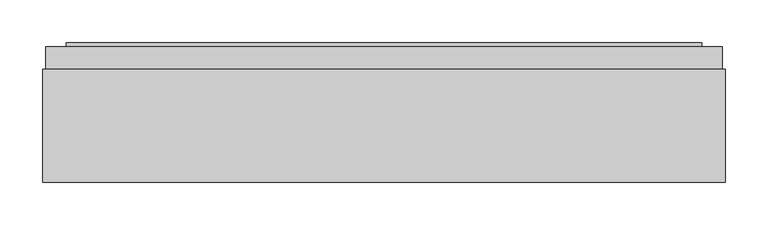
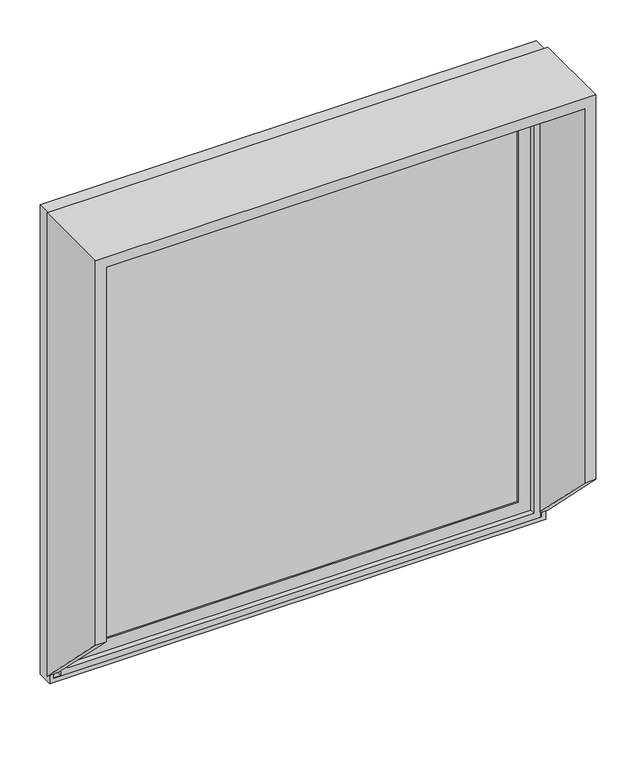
"""IFC4 building model written with IfcOpenShell, lengths in millimetres: plate geometry, SCISSOR PANEL : SCISSOR PANEL."""

from ifc_helpers import new_model, si_unit, frame, origin, place, context, project, spatial, polyline, outline, extrude, faceted_brep, source, transform, mapped, element, save


def plate_d9c9aec6(model_context):
    return source(origin(), model_context, "Body", "SolidModel", [
        faceted_brep([(-400.0, 132.5, 800.0), (400.0, 132.5, 800.0), (400.0, 132.5, 17.5), (382.5, 132.5, 17.5), (382.5, 132.5, 782.5), (-382.5, 132.5, 782.5), (-382.5, 132.5, 17.5), (-400.0, 132.5, 17.5), (-382.5, 0.0, 782.5), (-382.5, 0.0, 150.0), (382.5, 0.0, 150.0), (382.5, 0.0, 782.5), (-400.0, 0.0, 150.0), (400.0, 0.0, 150.0), (400.0, 0.0, 800.0), (-400.0, 0.0, 800.0)], [[[0, 1, 2, 3, 4, 5, 6, 7]], [[6, 5, 8, 9]], [[4, 3, 10, 11]], [[9, 12, 7, 6]], [[13, 10, 3, 2]], [[14, 15, 12, 9, 8, 11, 10, 13]], [[15, 0, 7, 12]], [[1, 14, 13, 2]], [[15, 14, 1, 0]], [[11, 8, 5, 4]]]),
        extrude(outline(polyline([(-369.5, 160.5), (369.5, 160.5), (369.5, 135.5), (-369.5, 135.5), (-369.5, 160.5)])), frame((0.0, 0.0, 30.5), z_axis=(0.0, 0.0, 1.0), x_axis=(1.0, 0.0, 0.0)), (0.0, 0.0, 1.0), 739.0),
        faceted_brep([(-352.5, 135.5, 752.5), (-352.5, 132.5, 752.5), (-352.5, 132.5, 47.5), (-352.5, 135.5, 47.5), (-369.5, 160.5, 769.5), (-369.5, 135.5, 769.5), (-369.5, 135.5, 30.5), (-369.5, 160.5, 30.5), (-352.5, 163.5, 752.5), (-352.5, 160.5, 752.5), (-352.5, 160.5, 47.5), (-352.5, 163.5, 47.5), (-372.5, 132.5, 772.5), (-372.5, 163.5, 772.5), (-372.5, 163.5, 27.5), (-372.5, 132.5, 27.5), (352.5, 132.5, 47.5), (352.5, 135.5, 47.5), (369.5, 135.5, 30.5), (369.5, 160.5, 30.5), (352.5, 160.5, 47.5), (352.5, 163.5, 47.5), (372.5, 163.5, 27.5), (372.5, 132.5, 27.5), (352.5, 132.5, 752.5), (352.5, 135.5, 752.5), (369.5, 135.5, 769.5), (369.5, 160.5, 769.5), (352.5, 160.5, 752.5), (352.5, 163.5, 752.5), (372.5, 163.5, 772.5), (372.5, 132.5, 772.5)], [[[0, 1, 2, 3]], [[4, 5, 6, 7]], [[8, 9, 10, 11]], [[12, 13, 14, 15]], [[3, 2, 16, 17]], [[7, 6, 18, 19]], [[11, 10, 20, 21]], [[15, 14, 22, 23]], [[17, 16, 24, 25]], [[19, 18, 26, 27]], [[21, 20, 28, 29]], [[23, 22, 30, 31]], [[15, 23, 31, 12], [1, 24, 16, 2]], [[25, 24, 1, 0]], [[5, 26, 18, 6], [3, 17, 25, 0]], [[27, 26, 5, 4]], [[7, 19, 27, 4], [9, 28, 20, 10]], [[29, 28, 9, 8]], [[13, 30, 22, 14], [11, 21, 29, 8]], [[31, 30, 13, 12]]]),
        faceted_brep([(-396.5, 132.5, 796.5), (-396.5, 158.75, 796.5), (-396.5, 158.75, 3.5), (-396.5, 132.5, 3.5), (-389.5, 150.0, 789.5), (-389.5, 132.5, 789.5), (-389.5, 132.5, 10.5), (-389.5, 150.0, 10.5), (-382.5, 123.75, 782.5), (-382.5, 150.0, 782.5), (-382.5, 150.0, 17.5), (-382.5, 123.75, 17.5), (-372.5, 158.75, 772.5), (-372.5, 123.75, 772.5), (-372.5, 123.75, 27.5), (-372.5, 158.75, 27.5), (396.5, 158.75, 3.5), (396.5, 132.5, 3.5), (389.5, 132.5, 10.5), (389.5, 150.0, 10.5), (382.5, 150.0, 17.5), (382.5, 123.75, 17.5), (372.5, 123.75, 27.5), (372.5, 158.75, 27.5), (396.5, 158.75, 796.5), (396.5, 132.5, 796.5), (389.5, 132.5, 789.5), (389.5, 150.0, 789.5), (382.5, 150.0, 782.5), (382.5, 123.75, 782.5), (372.5, 123.75, 772.5), (372.5, 158.75, 772.5)], [[[0, 1, 2, 3]], [[4, 5, 6, 7]], [[8, 9, 10, 11]], [[12, 13, 14, 15]], [[3, 2, 16, 17]], [[7, 6, 18, 19]], [[11, 10, 20, 21]], [[15, 14, 22, 23]], [[17, 16, 24, 25]], [[19, 18, 26, 27]], [[21, 20, 28, 29]], [[23, 22, 30, 31]], [[25, 24, 1, 0]], [[3, 17, 25, 0], [5, 26, 18, 6]], [[27, 26, 5, 4]], [[7, 19, 27, 4], [9, 28, 20, 10]], [[29, 28, 9, 8]], [[11, 21, 29, 8], [13, 30, 22, 14]], [[31, 30, 13, 12]], [[1, 24, 16, 2], [15, 23, 31, 12]]]),
        extrude(outline(polyline([(789.5, -389.5), (10.5, -389.5), (10.5, 389.5), (789.5, 389.5), (789.5, -389.5)]), holes=[polyline([(782.5, -382.5), (782.5, 382.5), (17.5, 382.5), (17.5, -382.5), (782.5, -382.5)])]), frame((0.0, 132.5, 0.0), z_axis=(0.0, 1.0, 0.0), x_axis=(0.0, 0.0, 1.0)), (0.0, 0.0, 1.0), 17.5),
    ])


if __name__ == "__main__":
    model = new_model("IFC4")
    model_context = context("Model", 3, world=origin())
    ifc_project = project(units=[si_unit("LENGTHUNIT", "METRE", prefix="MILLI")], contexts=[model_context])
    site = spatial("IfcSite", under=ifc_project)
    building = spatial("IfcBuilding", under=site)
    placement = place(None, origin())
    plate_shape = plate_d9c9aec6(model_context)
    element("IfcPlate", 1, ObjectType="SCISSOR PANEL : SCISSOR PANEL", at=placement, inside=building, context=model_context, shape_type="MappedRepresentation", body=[
        mapped(plate_shape, transform((0.0, 0.0, 0.0), x_axis=(1.0, 0.0, 0.0), y_axis=(0.0, 1.0, 0.0), z_axis=(0.0, 0.0, 1.0))),
    ])
    save(model, "model.ifc")
